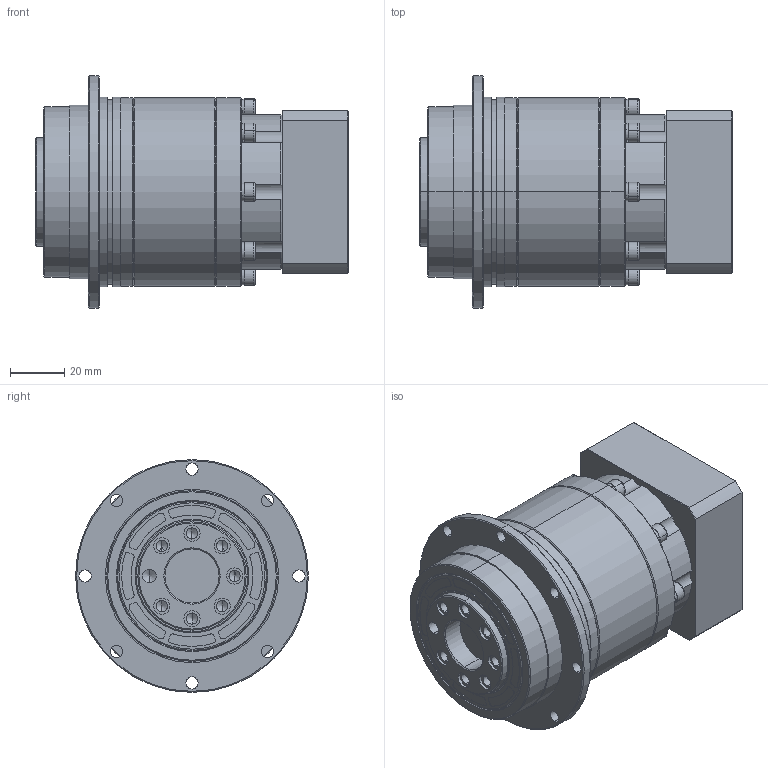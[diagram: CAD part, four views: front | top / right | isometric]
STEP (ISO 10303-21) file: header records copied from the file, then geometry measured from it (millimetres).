
FILE_DESCRIPTION (( 'STEP AP214' ), '1' );
FILE_NAME ('VRT-064-L2-P1 14-50-070-M5.STEP', '2023-08-15T01:03:26', ( '微软用户' ), ( '微软中国' ), 'SwSTEP 2.0', 'SolidWorks 2018', '' );
FILE_SCHEMA (( 'AUTOMOTIVE_DESIGN' ));
Length unit declared in the file: millimetre
Products named in the file (10): 二级齿圈VRT-064外形图; hex socket set screws with flat point gb_GB_FASTENER_SCREWS_HSFP M10X10-N; 萇儂楊擘 VRT-064-D50-M5-70F60H24.5; 笢潔楊擘VRT-064俋倛芞; hexagon socket head cap screws gb_GB_FASTENER_SCREWS_HSHCS M4X20-N; spring lock washers--normal type gb_GB_FASTENER_WASHER_SW 4; hexagon socket head cap screws gb_GB_FASTENER_SCREWS_HSHCS M5X16-N; VRT-064-L2-P1 14-50-070-M5; 一级齿圈 法兰盘VRT-064外形图; 一级整体太阳轮夹套外形图VRT-064D14
Assembly tree (35 placements, depth 2):
  VRT-064-L2-P1 14-50-070-M5
    一级齿圈 法兰盘VRT-064外形图
    笢潔楊擘VRT-064俋倛芞
    萇儂楊擘 VRT-064-D50-M5-70F60H24.5
    一级整体太阳轮夹套外形图VRT-064D14
    hexagon socket head cap screws gb_GB_FASTENER_SCREWS_HSHCS M4X20-N  x14
    spring lock washers--normal type gb_GB_FASTENER_WASHER_SW 4  x14
    hexagon socket head cap screws gb_GB_FASTENER_SCREWS_HSHCS M5X16-N
    hex socket set screws with flat point gb_GB_FASTENER_SCREWS_HSFP M10X10-N
    二级齿圈VRT-064外形图
Bounding box: 115.5 x 86 x 86 mm (x, y, z)
Volume: 269162.2 mm3; surface area: 83808.2 mm2
Topology: 36 solids, 36 shells, 1074 faces, 2611 edges, 1624 vertices
Faces by surface type: cylinder 423, plane 409, cone 210, bspline 32
Entity records: 19358 total; most frequent: CARTESIAN_POINT 3583, DIRECTION 3509, ORIENTED_EDGE 3006, EDGE_CURVE 1503, AXIS2_PLACEMENT_3D 1429, VERTEX_POINT 961, CIRCLE 778, EDGE_LOOP 732
